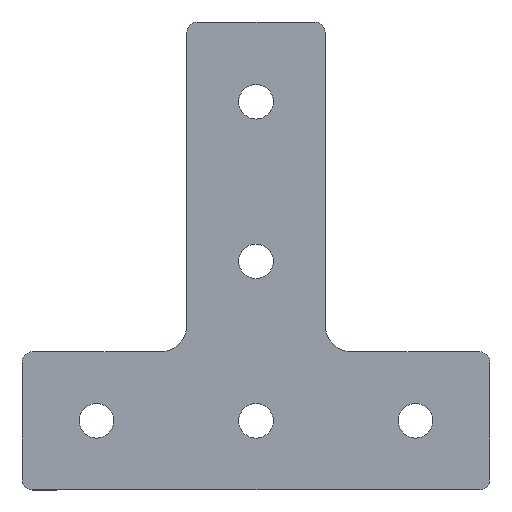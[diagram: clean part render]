
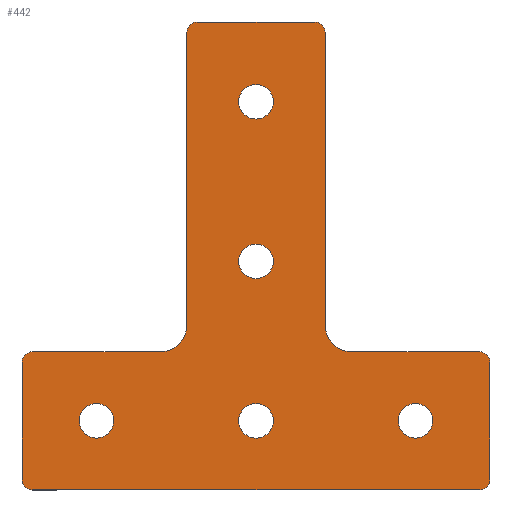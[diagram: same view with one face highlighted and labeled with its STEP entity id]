
A CAD part, top view. The second image highlights one B-rep face of the part: STEP entity #442.
In plain terms, the highlighted planar face has unit normal (0, 0, 1).
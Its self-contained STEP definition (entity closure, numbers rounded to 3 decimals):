
#21=CIRCLE('',#464,2.);
#23=CIRCLE('',#468,5.);
#25=CIRCLE('',#472,2.);
#27=CIRCLE('',#476,2.);
#29=CIRCLE('',#480,2.);
#31=CIRCLE('',#484,2.);
#33=CIRCLE('',#488,5.);
#35=CIRCLE('',#492,2.);
#41=CIRCLE('',#500,3.25);
#42=CIRCLE('',#501,3.25);
#43=CIRCLE('',#502,3.25);
#44=CIRCLE('',#503,3.25);
#45=CIRCLE('',#504,3.25);
#144=ORIENTED_EDGE('',*,*,#228,.F.);
#145=ORIENTED_EDGE('',*,*,#229,.F.);
#146=ORIENTED_EDGE('',*,*,#230,.F.);
#147=ORIENTED_EDGE('',*,*,#222,.T.);
#148=ORIENTED_EDGE('',*,*,#219,.T.);
#149=ORIENTED_EDGE('',*,*,#216,.T.);
#150=ORIENTED_EDGE('',*,*,#213,.T.);
#151=ORIENTED_EDGE('',*,*,#210,.T.);
#152=ORIENTED_EDGE('',*,*,#207,.T.);
#153=ORIENTED_EDGE('',*,*,#204,.T.);
#154=ORIENTED_EDGE('',*,*,#201,.T.);
#155=ORIENTED_EDGE('',*,*,#198,.T.);
#156=ORIENTED_EDGE('',*,*,#195,.T.);
#157=ORIENTED_EDGE('',*,*,#192,.T.);
#158=ORIENTED_EDGE('',*,*,#189,.T.);
#159=ORIENTED_EDGE('',*,*,#186,.T.);
#160=ORIENTED_EDGE('',*,*,#183,.T.);
#161=ORIENTED_EDGE('',*,*,#180,.T.);
#162=ORIENTED_EDGE('',*,*,#177,.T.);
#163=ORIENTED_EDGE('',*,*,#231,.F.);
#164=ORIENTED_EDGE('',*,*,#232,.F.);
#177=EDGE_CURVE('',#236,#235,#277,.T.);
#180=EDGE_CURVE('',#238,#236,#21,.T.);
#183=EDGE_CURVE('',#240,#238,#281,.T.);
#186=EDGE_CURVE('',#242,#240,#23,.T.);
#189=EDGE_CURVE('',#244,#242,#285,.T.);
#192=EDGE_CURVE('',#246,#244,#25,.T.);
#195=EDGE_CURVE('',#248,#246,#289,.T.);
#198=EDGE_CURVE('',#250,#248,#27,.T.);
#201=EDGE_CURVE('',#252,#250,#293,.T.);
#204=EDGE_CURVE('',#254,#252,#29,.T.);
#207=EDGE_CURVE('',#256,#254,#297,.T.);
#210=EDGE_CURVE('',#258,#256,#31,.T.);
#213=EDGE_CURVE('',#260,#258,#301,.T.);
#216=EDGE_CURVE('',#262,#260,#33,.T.);
#219=EDGE_CURVE('',#264,#262,#305,.T.);
#222=EDGE_CURVE('',#235,#264,#35,.T.);
#228=EDGE_CURVE('',#270,#270,#41,.T.);
#229=EDGE_CURVE('',#271,#271,#42,.T.);
#230=EDGE_CURVE('',#272,#272,#43,.T.);
#231=EDGE_CURVE('',#273,#273,#44,.T.);
#232=EDGE_CURVE('',#274,#274,#45,.T.);
#235=VERTEX_POINT('',#648);
#236=VERTEX_POINT('',#650);
#238=VERTEX_POINT('',#656);
#240=VERTEX_POINT('',#662);
#242=VERTEX_POINT('',#668);
#244=VERTEX_POINT('',#674);
#246=VERTEX_POINT('',#680);
#248=VERTEX_POINT('',#686);
#250=VERTEX_POINT('',#692);
#252=VERTEX_POINT('',#698);
#254=VERTEX_POINT('',#704);
#256=VERTEX_POINT('',#710);
#258=VERTEX_POINT('',#716);
#260=VERTEX_POINT('',#722);
#262=VERTEX_POINT('',#728);
#264=VERTEX_POINT('',#734);
#270=VERTEX_POINT('',#752);
#271=VERTEX_POINT('',#754);
#272=VERTEX_POINT('',#756);
#273=VERTEX_POINT('',#758);
#274=VERTEX_POINT('',#760);
#277=LINE('',#649,#309);
#281=LINE('',#661,#313);
#285=LINE('',#673,#317);
#289=LINE('',#685,#321);
#293=LINE('',#697,#325);
#297=LINE('',#709,#329);
#301=LINE('',#721,#333);
#305=LINE('',#733,#337);
#309=VECTOR('',#516,1000.);
#313=VECTOR('',#528,1000.);
#317=VECTOR('',#540,1000.);
#321=VECTOR('',#552,1000.);
#325=VECTOR('',#564,1000.);
#329=VECTOR('',#576,1000.);
#333=VECTOR('',#588,1000.);
#337=VECTOR('',#600,1000.);
#361=EDGE_LOOP('',(#144));
#362=EDGE_LOOP('',(#145));
#363=EDGE_LOOP('',(#146));
#364=EDGE_LOOP('',(#147,#148,#149,#150,#151,#152,#153,#154,#155,#156,#157,
#158,#159,#160,#161,#162));
#365=EDGE_LOOP('',(#163));
#366=EDGE_LOOP('',(#164));
#399=FACE_BOUND('',#361,.T.);
#400=FACE_BOUND('',#362,.T.);
#401=FACE_BOUND('',#363,.T.);
#402=FACE_BOUND('',#364,.T.);
#403=FACE_BOUND('',#365,.T.);
#404=FACE_BOUND('',#366,.T.);
#424=PLANE('',#499);
#442=ADVANCED_FACE('',(#399,#400,#401,#402,#403,#404),#424,.T.);
#464=AXIS2_PLACEMENT_3D('',#655,#522,#523);
#468=AXIS2_PLACEMENT_3D('',#667,#534,#535);
#472=AXIS2_PLACEMENT_3D('',#679,#546,#547);
#476=AXIS2_PLACEMENT_3D('',#691,#558,#559);
#480=AXIS2_PLACEMENT_3D('',#703,#570,#571);
#484=AXIS2_PLACEMENT_3D('',#715,#582,#583);
#488=AXIS2_PLACEMENT_3D('',#727,#594,#595);
#492=AXIS2_PLACEMENT_3D('',#738,#606,#607);
#499=AXIS2_PLACEMENT_3D('',#750,#620,#621);
#500=AXIS2_PLACEMENT_3D('',#751,#622,#623);
#501=AXIS2_PLACEMENT_3D('',#753,#624,#625);
#502=AXIS2_PLACEMENT_3D('',#755,#626,#627);
#503=AXIS2_PLACEMENT_3D('',#757,#628,#629);
#504=AXIS2_PLACEMENT_3D('',#759,#630,#631);
#516=DIRECTION('',(-1.,0.,0.));
#522=DIRECTION('',(0.,0.,1.));
#523=DIRECTION('',(1.,0.,0.));
#528=DIRECTION('',(0.,1.,0.));
#534=DIRECTION('',(0.,0.,-1.));
#535=DIRECTION('',(1.,0.,0.));
#540=DIRECTION('',(-1.,0.,0.));
#546=DIRECTION('',(0.,0.,1.));
#547=DIRECTION('',(1.,0.,0.));
#552=DIRECTION('',(0.,1.,0.));
#558=DIRECTION('',(0.,0.,1.));
#559=DIRECTION('',(1.,0.,0.));
#564=DIRECTION('',(1.,0.,0.));
#570=DIRECTION('',(0.,0.,1.));
#571=DIRECTION('',(1.,0.,0.));
#576=DIRECTION('',(0.,-1.,0.));
#582=DIRECTION('',(0.,0.,1.));
#583=DIRECTION('',(1.,0.,0.));
#588=DIRECTION('',(-1.,0.,0.));
#594=DIRECTION('',(0.,0.,-1.));
#595=DIRECTION('',(1.,0.,0.));
#600=DIRECTION('',(0.,-1.,0.));
#606=DIRECTION('',(0.,0.,1.));
#607=DIRECTION('',(1.,0.,0.));
#620=DIRECTION('',(0.,0.,1.));
#621=DIRECTION('',(1.,0.,0.));
#622=DIRECTION('',(0.,0.,1.));
#623=DIRECTION('',(1.,0.,0.));
#624=DIRECTION('',(0.,0.,1.));
#625=DIRECTION('',(1.,0.,0.));
#626=DIRECTION('',(0.,0.,1.));
#627=DIRECTION('',(1.,0.,0.));
#628=DIRECTION('',(0.,0.,1.));
#629=DIRECTION('',(1.,0.,0.));
#630=DIRECTION('',(0.,0.,1.));
#631=DIRECTION('',(1.,0.,0.));
#648=CARTESIAN_POINT('',(-11.,74.621,2.));
#649=CARTESIAN_POINT('',(-11.,74.621,2.));
#650=CARTESIAN_POINT('',(11.,74.621,2.));
#655=CARTESIAN_POINT('',(11.,72.621,2.));
#656=CARTESIAN_POINT('',(13.,72.621,2.));
#661=CARTESIAN_POINT('',(13.,72.621,2.));
#662=CARTESIAN_POINT('',(13.,17.621,2.));
#667=CARTESIAN_POINT('',(18.,17.621,2.));
#668=CARTESIAN_POINT('',(18.,12.621,2.));
#673=CARTESIAN_POINT('',(18.,12.621,2.));
#674=CARTESIAN_POINT('',(42.,12.621,2.));
#679=CARTESIAN_POINT('',(42.,10.621,2.));
#680=CARTESIAN_POINT('',(44.,10.621,2.));
#685=CARTESIAN_POINT('',(44.,-11.379,2.));
#686=CARTESIAN_POINT('',(44.,-11.379,2.));
#691=CARTESIAN_POINT('',(42.,-11.379,2.));
#692=CARTESIAN_POINT('',(42.,-13.379,2.));
#697=CARTESIAN_POINT('',(42.,-13.379,2.));
#698=CARTESIAN_POINT('',(-42.,-13.379,2.));
#703=CARTESIAN_POINT('',(-42.,-11.379,2.));
#704=CARTESIAN_POINT('',(-44.,-11.379,2.));
#709=CARTESIAN_POINT('',(-44.,-11.379,2.));
#710=CARTESIAN_POINT('',(-44.,10.621,2.));
#715=CARTESIAN_POINT('',(-42.,10.621,2.));
#716=CARTESIAN_POINT('',(-42.,12.621,2.));
#721=CARTESIAN_POINT('',(-42.,12.621,2.));
#722=CARTESIAN_POINT('',(-18.,12.621,2.));
#727=CARTESIAN_POINT('',(-18.,17.621,2.));
#728=CARTESIAN_POINT('',(-13.,17.621,2.));
#733=CARTESIAN_POINT('',(-13.,72.621,2.));
#734=CARTESIAN_POINT('',(-13.,72.621,2.));
#738=CARTESIAN_POINT('',(-11.,72.621,2.));
#750=CARTESIAN_POINT('',(-11.,72.621,2.));
#751=CARTESIAN_POINT('',(30.,-0.379,2.));
#752=CARTESIAN_POINT('',(33.25,-0.379,2.));
#753=CARTESIAN_POINT('',(0.,59.621,2.));
#754=CARTESIAN_POINT('',(3.25,59.621,2.));
#755=CARTESIAN_POINT('',(0.,-0.379,2.));
#756=CARTESIAN_POINT('',(3.25,-0.379,2.));
#757=CARTESIAN_POINT('',(0.,29.621,2.));
#758=CARTESIAN_POINT('',(3.25,29.621,2.));
#759=CARTESIAN_POINT('',(-30.,-0.379,2.));
#760=CARTESIAN_POINT('',(-26.75,-0.379,2.));
